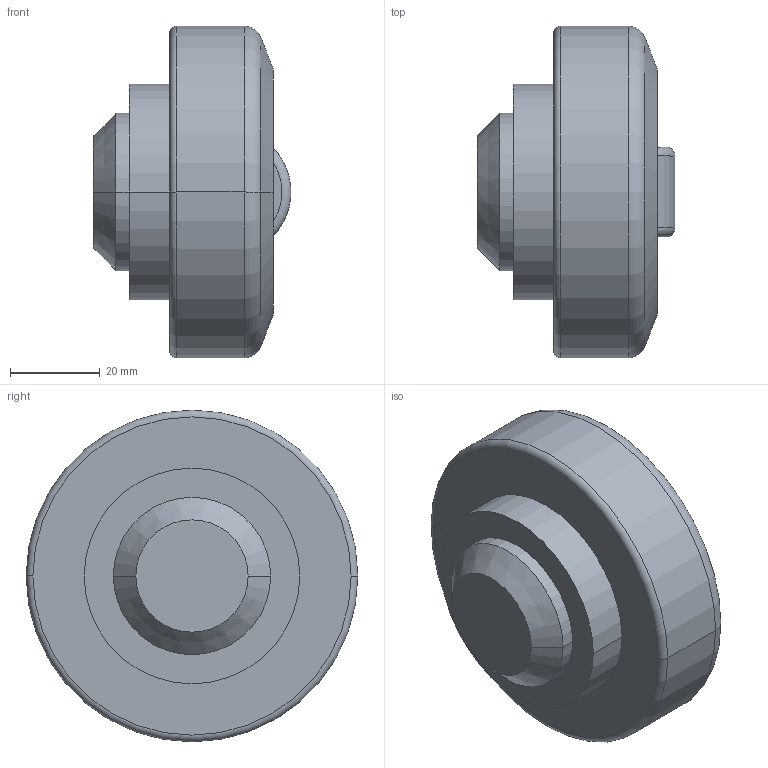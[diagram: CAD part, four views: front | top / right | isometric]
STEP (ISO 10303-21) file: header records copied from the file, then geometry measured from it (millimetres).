
FILE_DESCRIPTION (( 'STEP AP214' ), '1' );
FILE_NAME ('3D 4.0455 PR.STEP', '2013-12-09T09:06:38', ( 'usuario' ), ( 'Hewlett-Packard Company' ), 'SwSTEP 2.0', 'SolidWorks 2017', '' );
FILE_SCHEMA (( 'AUTOMOTIVE_DESIGN' ));
Length unit declared in the file: millimetre
Products named in the file (1): 3D 4.0455 PR
Bounding box: 43.95 x 73.8 x 73.8 mm (x, y, z)
Volume: 118060.2 mm3; surface area: 14860.4 mm2
Topology: 1 solids, 1 shells, 23 faces, 46 edges, 28 vertices
Faces by surface type: cylinder 7, torus 6, plane 6, cone 4
Entity records: 686 total; most frequent: CARTESIAN_POINT 154, DIRECTION 118, ORIENTED_EDGE 92, AXIS2_PLACEMENT_3D 52, EDGE_CURVE 46, CIRCLE 28, VERTEX_POINT 28, EDGE_LOOP 26
